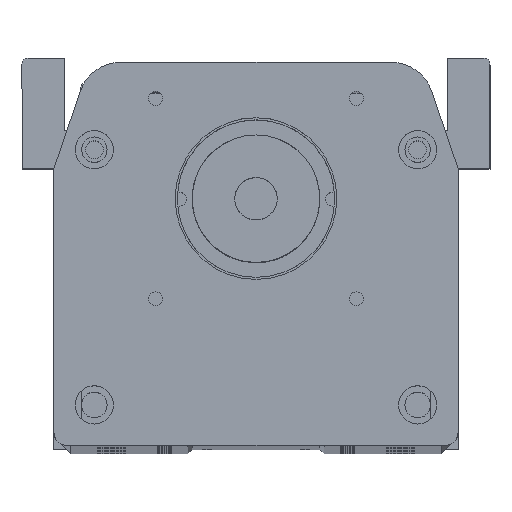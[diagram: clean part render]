
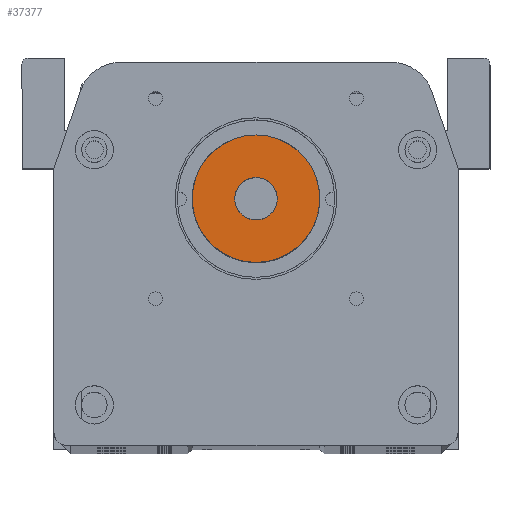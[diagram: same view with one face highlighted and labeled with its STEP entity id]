
A CAD part, top view. The second image highlights one B-rep face of the part: STEP entity #37377.
In plain terms, the highlighted planar face has unit normal (0, 0, 1).
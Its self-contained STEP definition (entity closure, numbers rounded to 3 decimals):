
#46 = CARTESIAN_POINT ( 'NONE',  ( -21.138, 0., 40.753 ) ) ;
#1678 = EDGE_CURVE ( 'NONE', #36121, #4903, #5210, .T. ) ;
#2460 = CARTESIAN_POINT ( 'NONE',  ( -6.16, 0., 40.753 ) ) ;
#4903 = VERTEX_POINT ( 'NONE', #5938 ) ;
#5210 = CIRCLE ( 'NONE', #28404, 5.003 ) ;
#5434 = DIRECTION ( 'NONE',  ( 0., 0., 1. ) ) ;
#5938 = CARTESIAN_POINT ( 'NONE',  ( -11.163, 0., 40.753 ) ) ;
#6016 = DIRECTION ( 'NONE',  ( 1., 0., 0. ) ) ;
#9932 = FACE_OUTER_BOUND ( 'NONE', #36355, .T. ) ;
#10614 = CARTESIAN_POINT ( 'NONE',  ( -6.16, 0., 40.753 ) ) ;
#13623 = DIRECTION ( 'NONE',  ( 0., 0., 1. ) ) ;
#13709 = ORIENTED_EDGE ( 'NONE', *, *, #29089, .F. ) ;
#14156 = DIRECTION ( 'NONE',  ( 1., 0., 0. ) ) ;
#17239 = AXIS2_PLACEMENT_3D ( 'NONE', #26701, #5434, #30278 ) ;
#17298 = EDGE_CURVE ( 'NONE', #27649, #32190, #17677, .T. ) ;
#17455 = DIRECTION ( 'NONE',  ( 1., 0., 0. ) ) ;
#17545 = DIRECTION ( 'NONE',  ( 0., 0., 1. ) ) ;
#17677 = CIRCLE ( 'NONE', #17239, 14.978 ) ;
#18328 = ORIENTED_EDGE ( 'NONE', *, *, #1678, .F. ) ;
#18588 = AXIS2_PLACEMENT_3D ( 'NONE', #2460, #27295, #6016 ) ;
#18744 = EDGE_LOOP ( 'NONE', ( #13709, #18328 ) ) ;
#20043 = AXIS2_PLACEMENT_3D ( 'NONE', #10614, #35488, #14156 ) ;
#22710 = CIRCLE ( 'NONE', #29918, 5.003 ) ;
#23790 = CIRCLE ( 'NONE', #18588, 14.978 ) ;
#24392 = CARTESIAN_POINT ( 'NONE',  ( -1.157, 0., 40.753 ) ) ;
#24751 = ORIENTED_EDGE ( 'NONE', *, *, #17298, .T. ) ;
#25119 = CARTESIAN_POINT ( 'NONE',  ( 8.817, 0., 40.753 ) ) ;
#26701 = CARTESIAN_POINT ( 'NONE',  ( -6.16, 0., 40.753 ) ) ;
#27295 = DIRECTION ( 'NONE',  ( 0., 0., 1. ) ) ;
#27529 = ORIENTED_EDGE ( 'NONE', *, *, #29612, .T. ) ;
#27649 = VERTEX_POINT ( 'NONE', #25119 ) ;
#27704 = FACE_BOUND ( 'NONE', #18744, .T. ) ;
#28404 = AXIS2_PLACEMENT_3D ( 'NONE', #38618, #17545, #17455 ) ;
#29089 = EDGE_CURVE ( 'NONE', #4903, #36121, #22710, .T. ) ;
#29612 = EDGE_CURVE ( 'NONE', #32190, #27649, #23790, .T. ) ;
#29918 = AXIS2_PLACEMENT_3D ( 'NONE', #34965, #13623, #38545 ) ;
#30278 = DIRECTION ( 'NONE',  ( 1., 0., 0. ) ) ;
#31743 = PLANE ( 'NONE',  #20043 ) ;
#32190 = VERTEX_POINT ( 'NONE', #46 ) ;
#34965 = CARTESIAN_POINT ( 'NONE',  ( -6.16, 0., 40.753 ) ) ;
#35488 = DIRECTION ( 'NONE',  ( 0., 0., 1. ) ) ;
#36121 = VERTEX_POINT ( 'NONE', #24392 ) ;
#36355 = EDGE_LOOP ( 'NONE', ( #27529, #24751 ) ) ;
#37377 = ADVANCED_FACE ( 'NONE', ( #9932, #27704 ), #31743, .T. ) ;
#38545 = DIRECTION ( 'NONE',  ( 1., 0., 0. ) ) ;
#38618 = CARTESIAN_POINT ( 'NONE',  ( -6.16, 0., 40.753 ) ) ;
